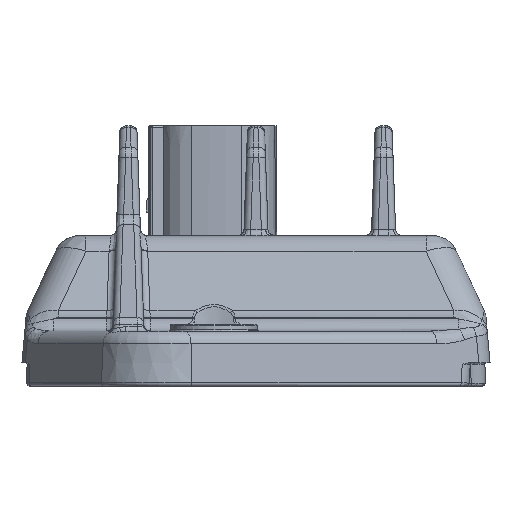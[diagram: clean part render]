
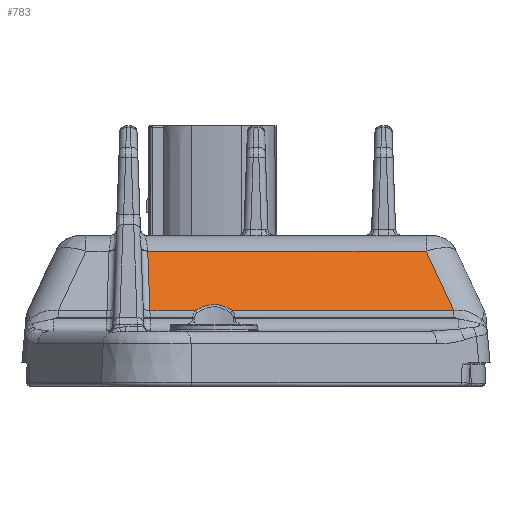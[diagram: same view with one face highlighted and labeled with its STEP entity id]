
A CAD part, left-side view. The second image highlights one B-rep face of the part: STEP entity #783.
In plain terms, the highlighted planar face has unit normal (-0.906, 0, 0.423).
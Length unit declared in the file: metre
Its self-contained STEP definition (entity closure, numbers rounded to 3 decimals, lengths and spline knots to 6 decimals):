
#783 = ADVANCED_FACE( '', ( #2520 ), #2521, .F. );
#2520 = FACE_OUTER_BOUND( '', #13929, .T. );
#2521 = PLANE( '', #13930 );
#13929 = EDGE_LOOP( '', ( #20329, #20330, #20331, #20332, #20333, #20334 ) );
#13930 = AXIS2_PLACEMENT_3D( '', #20335, #20336, #20337 );
#20329 = ORIENTED_EDGE( '', *, *, #23794, .T. );
#20330 = ORIENTED_EDGE( '', *, *, #22305, .T. );
#20331 = ORIENTED_EDGE( '', *, *, #21936, .T. );
#20332 = ORIENTED_EDGE( '', *, *, #23798, .T. );
#20333 = ORIENTED_EDGE( '', *, *, #22385, .T. );
#20334 = ORIENTED_EDGE( '', *, *, #23007, .T. );
#20335 = CARTESIAN_POINT( '', ( -0.063485, -0.012533, 0.01425 ) );
#20336 = DIRECTION( '', ( 0.906, 0., -0.423 ) );
#20337 = DIRECTION( '', ( 0., -1., 0. ) );
#21936 = EDGE_CURVE( '', #24148, #24149, #24150, .T. );
#22305 = EDGE_CURVE( '', #24803, #24148, #24804, .T. );
#22385 = EDGE_CURVE( '', #24935, #24939, #24940, .T. );
#23007 = EDGE_CURVE( '', #24939, #26027, #26029, .T. );
#23794 = EDGE_CURVE( '', #26027, #24803, #27198, .T. );
#23798 = EDGE_CURVE( '', #24149, #24935, #27202, .T. );
#24148 = VERTEX_POINT( '', #27660 );
#24149 = VERTEX_POINT( '', #27661 );
#24150 = B_SPLINE_CURVE_WITH_KNOTS( '', 1, ( #27662, #27663 ), .UNSPECIFIED., .F., .F., ( 2, 2 ), ( 0., 1. ), .UNSPECIFIED. );
#24803 = VERTEX_POINT( '', #30164 );
#24804 = B_SPLINE_CURVE_WITH_KNOTS( '', 1, ( #30165, #30166 ), .UNSPECIFIED., .F., .F., ( 2, 2 ), ( 0., 1. ), .UNSPECIFIED. );
#24935 = VERTEX_POINT( '', #30706 );
#24939 = VERTEX_POINT( '', #30732 );
#24940 = LINE( '', #30733, #30734 );
#26027 = VERTEX_POINT( '', #33744 );
#26029 = B_SPLINE_CURVE_WITH_KNOTS( '', 3, ( #33749, #33750, #33751, #33752, #33753, #33754, #33755, #33756 ), .UNSPECIFIED., .F., .F., ( 4, 1, 1, 1, 1, 4 ), ( 0., 0.2, 0.4, 0.6, 0.8, 1. ), .UNSPECIFIED. );
#27198 = B_SPLINE_CURVE_WITH_KNOTS( '', 1, ( #37249, #37250 ), .UNSPECIFIED., .F., .F., ( 2, 2 ), ( 0., 1. ), .UNSPECIFIED. );
#27202 = B_SPLINE_CURVE_WITH_KNOTS( '', 1, ( #37261, #37262 ), .UNSPECIFIED., .F., .F., ( 2, 2 ), ( 0., 1. ), .UNSPECIFIED. );
#27660 = CARTESIAN_POINT( '', ( -0.061415, -0.031224, 0.01869 ) );
#27661 = CARTESIAN_POINT( '', ( -0.061415, 0.010299, 0.01869 ) );
#27662 = CARTESIAN_POINT( '', ( -0.061415, -0.031224, 0.01869 ) );
#27663 = CARTESIAN_POINT( '', ( -0.061415, 0.010299, 0.01869 ) );
#30164 = CARTESIAN_POINT( '', ( -0.065556, -0.035365, 0.009809 ) );
#30165 = CARTESIAN_POINT( '', ( -0.065556, -0.035365, 0.009809 ) );
#30166 = CARTESIAN_POINT( '', ( -0.061415, -0.031224, 0.01869 ) );
#30706 = CARTESIAN_POINT( '', ( -0.065556, 0.009989, 0.009809 ) );
#30732 = CARTESIAN_POINT( '', ( -0.065556, 0.003144, 0.009809 ) );
#30733 = CARTESIAN_POINT( '', ( -0.065556, 0.009989, 0.009809 ) );
#30734 = VECTOR( '', #38714, 1. );
#33744 = CARTESIAN_POINT( '', ( -0.065556, -0.002294, 0.009809 ) );
#33749 = CARTESIAN_POINT( '', ( -0.065556, 0.003144, 0.009809 ) );
#33750 = CARTESIAN_POINT( '', ( -0.065438, 0.002772, 0.010063 ) );
#33751 = CARTESIAN_POINT( '', ( -0.065255, 0.002029, 0.010454 ) );
#33752 = CARTESIAN_POINT( '', ( -0.065129, 0.000942, 0.010724 ) );
#33753 = CARTESIAN_POINT( '', ( -0.065129, -0.000093, 0.010724 ) );
#33754 = CARTESIAN_POINT( '', ( -0.065256, -0.001179, 0.010454 ) );
#33755 = CARTESIAN_POINT( '', ( -0.065438, -0.001922, 0.010062 ) );
#33756 = CARTESIAN_POINT( '', ( -0.065556, -0.002294, 0.009809 ) );
#37249 = CARTESIAN_POINT( '', ( -0.065556, -0.002294, 0.009809 ) );
#37250 = CARTESIAN_POINT( '', ( -0.065556, -0.035365, 0.009809 ) );
#37261 = CARTESIAN_POINT( '', ( -0.061415, 0.010299, 0.01869 ) );
#37262 = CARTESIAN_POINT( '', ( -0.065556, 0.009989, 0.009809 ) );
#38714 = DIRECTION( '', ( 0., -1., 0. ) );
